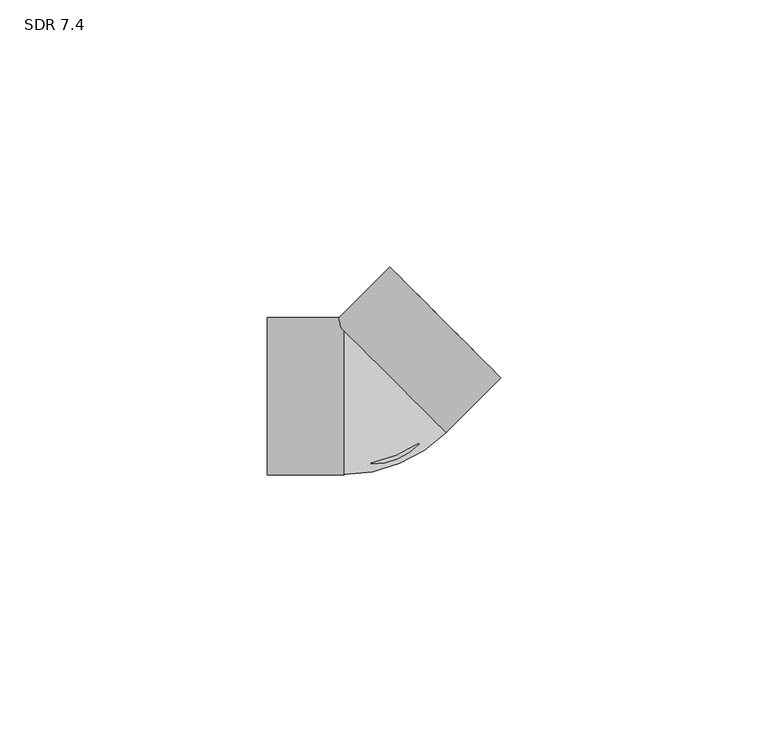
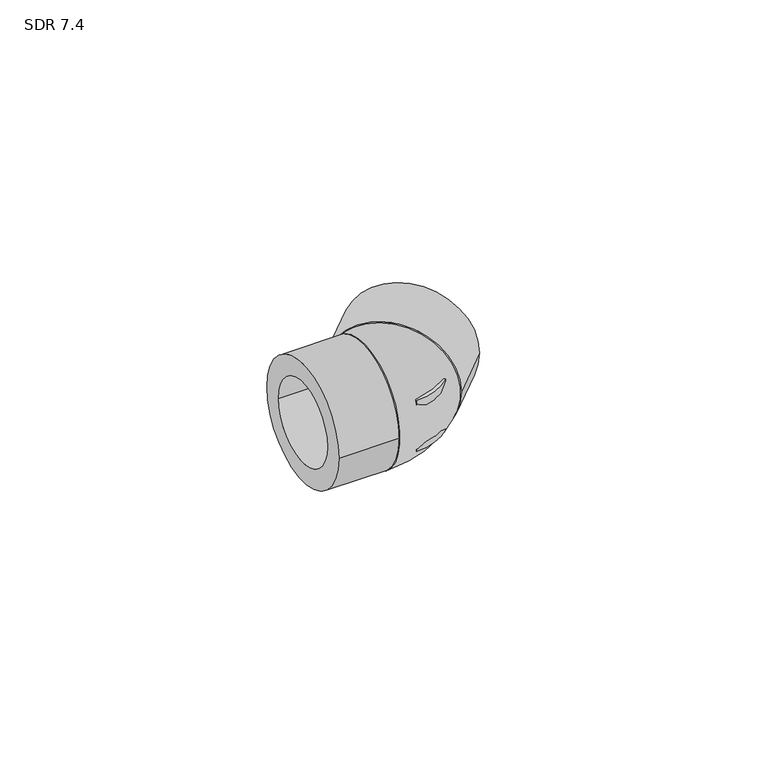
"""IFC4 building model written with IfcOpenShell, lengths in millimetres: pipe fitting geometry, Aquatherm - Elbow Socket : SDR 7.4."""

from ifc_helpers import new_model, si_unit, point, frame, origin, origin_with_axes, origin_2d, place, context, project, spatial, polyline, circle_curve, ellipse_curve, trimmed, segment, composite_curve, outline, extrude, source, transform, mapped, element, save
from ifc_brep_helpers import plane_surface, revolved_surface, advanced_brep


def sdr_7_4_5e5f48a7(model_context):
    return source(origin(), model_context, "Body", "SolidModel", [
        extrude(outline(composite_curve([segment(polyline([(0.0, -12.7), (0.0, 0.0), (8.9802561, -8.9802561)]), True, "CONTINUOUS"), segment(trimmed(circle_curve(origin_2d(), 12.7), [point((8.9802561, -8.9802561))], [point((0.0, -12.7))], False, "CARTESIAN"), True, "CONTINUOUS")], self_intersect=False)), frame((0.0, 0.0, -6.35), z_axis=(0.0, 0.0, 1.0), x_axis=(1.0, 0.0, 0.0)), (0.0, 0.0, 1.0), 6.35),
        extrude(outline(composite_curve([segment(trimmed(circle_curve(origin_2d(), 12.7), [point((8.9802561, -8.9802561))], [point((0.0, -12.7))], False, "CARTESIAN"), True, "CONTINUOUS"), segment(polyline([(0.0, -12.7), (0.0, 0.0), (8.9802561, -8.9802561)]), True, "CONTINUOUS")], self_intersect=False)), origin_with_axes(), (0.0, 0.0, 1.0), 6.35),
        extrude(outline(composite_curve([segment(trimmed(circle_curve(origin_2d(), 14.732), [point((0.0, 14.732))], [point((0.0, -14.732))], False, "CARTESIAN"), True, "CONTINUOUS"), segment(trimmed(circle_curve(origin_2d(), 14.732), [point((0.0, -14.732))], [point((0.0, 14.732))], False, "CARTESIAN"), True, "CONTINUOUS")], self_intersect=False), holes=[composite_curve([segment(trimmed(circle_curve(origin_2d(), 10.033), [point((0.0, 10.033))], [point((0.0, -10.033))], True, "CARTESIAN"), True, "CONTINUOUS"), segment(trimmed(circle_curve(origin_2d(), 10.033), [point((0.0, -10.033))], [point((0.0, 10.033))], True, "CARTESIAN"), True, "CONTINUOUS")], self_intersect=False)]), frame((3.5921024, 3.5921024, 0.0), z_axis=(0.7071067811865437, 0.7071067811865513, 0.0), x_axis=(0.0, 0.0, 1.0)), (0.0, 0.0, 1.0), 14.478),
        advanced_brep(
        [(-5.08, 12.2642049, -8.1621751), (-5.08, 12.2642049, 8.1621751), (-5.08, -7.2460556, 0.0), (-5.08, 7.2460556, 0.0), (8.7158375, -1.5316326, 0.0), (-1.5316326, 8.7158375, 0.0)],
        [
            (0, 1, circle_curve(frame((-5.08, 0.0, 0.0), z_axis=(-1.0, 0.0, 0.0), x_axis=(0.0, 1.0, 0.0)), 14.732)),
            (1, 0),
            (2, 3, circle_curve(frame((-5.08, 0.0, 0.0), z_axis=(1.0, 0.0, 0.0), x_axis=(0.0, 1.0, 0.0)), 7.2460556)),
            (3, 2, circle_curve(frame((-5.08, 0.0, 0.0), z_axis=(1.0, 0.0, 0.0), x_axis=(0.0, 1.0, 0.0)), 7.2460556)),
            (1, 0, circle_curve(frame((3.5921024, 3.5921024, 0.0), z_axis=(0.7071067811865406, 0.7071067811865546, 0.0), x_axis=(-0.7071067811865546, 0.7071067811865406, 0.0)), 14.732)),
            (4, 5, circle_curve(frame((3.5921024, 3.5921024, 0.0), z_axis=(-0.7071067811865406, -0.7071067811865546, 0.0), x_axis=(-0.7071067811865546, 0.7071067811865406, 0.0)), 7.2460556)),
            (5, 4, circle_curve(frame((3.5921024, 3.5921024, 0.0), z_axis=(-0.7071067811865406, -0.7071067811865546, 0.0), x_axis=(-0.7071067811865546, 0.7071067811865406, 0.0)), 7.2460556)),
            (5, 3, circle_curve(frame((-5.08, 12.2642049, 0.0), z_axis=(0.0, 0.0, -1.0), x_axis=(0.0, -1.0, 0.0)), 5.0181493)),
            (2, 4, circle_curve(frame((-5.08, 12.2642049, 0.0), z_axis=(0.0, 0.0, 1.0), x_axis=(0.0, -1.0, 0.0)), 19.5102605)),
        ],
        [
            plane_surface(frame((-5.08, 12.2642049, 65.3121751), z_axis=(-1.0, 0.0, 0.0), x_axis=(0.0, -1.0, 0.0))),
            plane_surface(frame((-5.08, 12.2642049, 65.3121751), z_axis=(0.7071067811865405, 0.7071067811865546, 0.0), x_axis=(0.7071067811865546, -0.7071067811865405, 0.0))),
            revolved_surface(trimmed(ellipse_curve(frame((-5.08, 0.0, 0.0), z_axis=(1.0, 0.0, 0.0), x_axis=(0.0, 1.0, 0.0)), 14.732, 14.732), [point((-5.08, 12.2642049, 8.1621751))], [point((-5.08, 12.2642049, -8.1621751))], True, "CARTESIAN"), (-5.08, 12.2642049, 65.3121751), (0.0, 0.0, -1.0)),
            revolved_surface(trimmed(ellipse_curve(frame((-5.08, 0.0, 0.0), z_axis=(-1.0, 0.0, 0.0), x_axis=(0.0, 1.0, 0.0)), 7.2460556, 7.2460556), [point((-5.08, 7.2460556, 0.0))], [point((-5.08, -7.2460556, 0.0))], True, "CARTESIAN"), (-5.08, 12.2642049, 65.3121751), (0.0, 0.0, -1.0)),
            revolved_surface(trimmed(ellipse_curve(frame((-5.08, 0.0, 0.0), z_axis=(-1.0, 0.0, 0.0), x_axis=(0.0, 1.0, 0.0)), 7.2460556, 7.2460556), [point((-5.08, -7.2460556, 0.0))], [point((-5.08, 7.2460556, 0.0))], True, "CARTESIAN"), (-5.08, 12.2642049, 65.3121751), (0.0, 0.0, -1.0)),
        ],
        [
            (0, [[1, 2], [3, 4]]),
            (1, [[5, -2], [6, 7]]),
            (2, [[-1, -5]]),
            (3, [[8, -3, 9, -7]]),
            (4, [[-9, -4, -8, -6]]),
        ],
    ),
        extrude(outline(composite_curve([segment(trimmed(circle_curve(origin_2d(), 14.732), [point((14.732, 0.0))], [point((-14.732, 0.0))], False, "CARTESIAN"), True, "CONTINUOUS"), segment(trimmed(circle_curve(origin_2d(), 14.732), [point((-14.732, 0.0))], [point((14.732, 0.0))], False, "CARTESIAN"), True, "CONTINUOUS")], self_intersect=False), holes=[composite_curve([segment(trimmed(circle_curve(origin_2d(), 10.033), [point((10.033, 0.0))], [point((-10.033, 0.0))], True, "CARTESIAN"), True, "CONTINUOUS"), segment(trimmed(circle_curve(origin_2d(), 10.033), [point((-10.033, 0.0))], [point((10.033, 0.0))], True, "CARTESIAN"), True, "CONTINUOUS")], self_intersect=False)]), frame((-19.558, 0.0, 0.0), z_axis=(1.0, 0.0, 0.0), x_axis=(0.0, 1.0, 0.0)), (0.0, 0.0, 1.0), 14.478),
    ])


if __name__ == "__main__":
    model = new_model("IFC4")
    model_context = context("Model", 3, world=origin())
    ifc_project = project(units=[si_unit("LENGTHUNIT", "METRE", prefix="MILLI")], contexts=[model_context])
    site = spatial("IfcSite", under=ifc_project)
    building = spatial("IfcBuilding", under=site)
    placement = place(None, origin())
    sdr_7_4_shape = sdr_7_4_5e5f48a7(model_context)
    element("IfcPipeFitting", 1, ObjectType="Aquatherm - Elbow Socket : SDR 7.4", at=placement, inside=building, context=model_context, shape_type="MappedRepresentation", body=[
        mapped(sdr_7_4_shape, transform((0.0, 0.0, 0.0), x_axis=(1.0, 0.0, 0.0), y_axis=(0.0, 1.0, 0.0), z_axis=(0.0, 0.0, 1.0))),
    ])
    save(model, "model.ifc")
